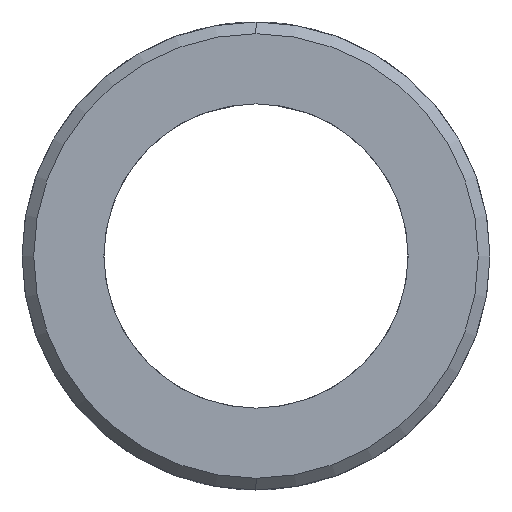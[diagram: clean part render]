
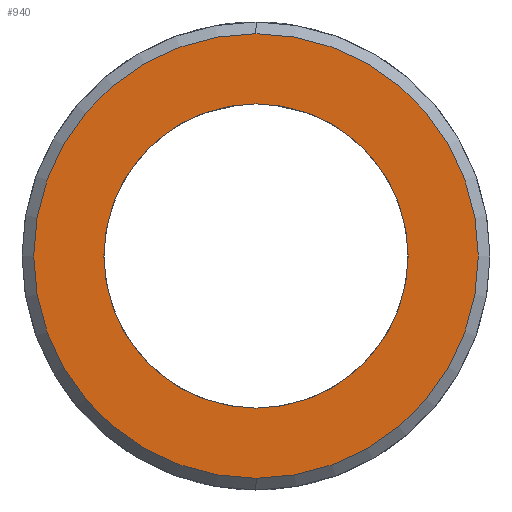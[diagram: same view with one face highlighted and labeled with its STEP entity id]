
A CAD part, left-side view. The second image highlights one B-rep face of the part: STEP entity #940.
In plain terms, the highlighted planar face has unit normal (-1, 0, 0).
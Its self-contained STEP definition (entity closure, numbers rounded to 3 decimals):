
#20 = DIRECTION ( 'NONE',  ( 0., 0., 1. ) ) ;
#48 = DIRECTION ( 'NONE',  ( 0., 0., -1. ) ) ;
#124 = AXIS2_PLACEMENT_3D ( 'NONE', #1102, #576, #20 ) ;
#133 = EDGE_LOOP ( 'NONE', ( #843, #768 ) ) ;
#271 = VERTEX_POINT ( 'NONE', #827 ) ;
#284 = CIRCLE ( 'NONE', #1004, 13. ) ;
#292 = EDGE_CURVE ( 'NONE', #271, #712, #975, .T. ) ;
#300 = DIRECTION ( 'NONE',  ( -1., 0., 0. ) ) ;
#327 = CIRCLE ( 'NONE', #779, 19. ) ;
#384 = DIRECTION ( 'NONE',  ( -1., 0., 0. ) ) ;
#389 = FACE_OUTER_BOUND ( 'NONE', #133, .T. ) ;
#390 = CARTESIAN_POINT ( 'NONE',  ( -34., 0., 0. ) ) ;
#409 = VERTEX_POINT ( 'NONE', #612 ) ;
#490 = DIRECTION ( 'NONE',  ( 0., 0., 1. ) ) ;
#497 = VERTEX_POINT ( 'NONE', #542 ) ;
#542 = CARTESIAN_POINT ( 'NONE',  ( -34., 0., 19. ) ) ;
#576 = DIRECTION ( 'NONE',  ( -1., 0., 0. ) ) ;
#604 = DIRECTION ( 'NONE',  ( 1., 0., 0. ) ) ;
#612 = CARTESIAN_POINT ( 'NONE',  ( -34., 0., -19. ) ) ;
#634 = ORIENTED_EDGE ( 'NONE', *, *, #292, .F. ) ;
#668 = FACE_BOUND ( 'NONE', #1093, .T. ) ;
#670 = EDGE_CURVE ( 'NONE', #409, #497, #327, .T. ) ;
#690 = EDGE_CURVE ( 'NONE', #712, #271, #284, .T. ) ;
#712 = VERTEX_POINT ( 'NONE', #1112 ) ;
#722 = EDGE_CURVE ( 'NONE', #497, #409, #784, .T. ) ;
#768 = ORIENTED_EDGE ( 'NONE', *, *, #722, .T. ) ;
#779 = AXIS2_PLACEMENT_3D ( 'NONE', #929, #384, #1010 ) ;
#784 = CIRCLE ( 'NONE', #1138, 19. ) ;
#827 = CARTESIAN_POINT ( 'NONE',  ( -34., 0., 13. ) ) ;
#843 = ORIENTED_EDGE ( 'NONE', *, *, #670, .T. ) ;
#850 = CARTESIAN_POINT ( 'NONE',  ( -34., 0., 0. ) ) ;
#876 = AXIS2_PLACEMENT_3D ( 'NONE', #1133, #604, #48 ) ;
#929 = CARTESIAN_POINT ( 'NONE',  ( -34., 0., 0. ) ) ;
#935 = DIRECTION ( 'NONE',  ( 0., 0., -1. ) ) ;
#940 = ADVANCED_FACE ( 'NONE', ( #389, #668 ), #1122, .F. ) ;
#975 = CIRCLE ( 'NONE', #124, 13. ) ;
#1001 = ORIENTED_EDGE ( 'NONE', *, *, #690, .F. ) ;
#1004 = AXIS2_PLACEMENT_3D ( 'NONE', #390, #1013, #490 ) ;
#1010 = DIRECTION ( 'NONE',  ( 0., 0., -1. ) ) ;
#1013 = DIRECTION ( 'NONE',  ( -1., 0., 0. ) ) ;
#1093 = EDGE_LOOP ( 'NONE', ( #634, #1001 ) ) ;
#1102 = CARTESIAN_POINT ( 'NONE',  ( -34., 0., 0. ) ) ;
#1112 = CARTESIAN_POINT ( 'NONE',  ( -34., 0., -13. ) ) ;
#1122 = PLANE ( 'NONE',  #876 ) ;
#1133 = CARTESIAN_POINT ( 'NONE',  ( -34., 13., 0. ) ) ;
#1138 = AXIS2_PLACEMENT_3D ( 'NONE', #850, #300, #935 ) ;
